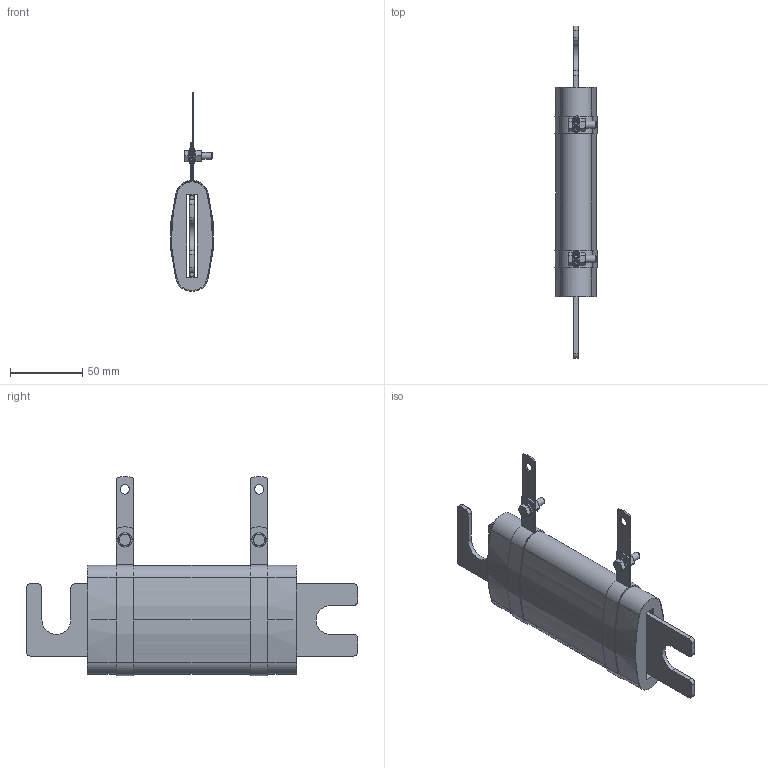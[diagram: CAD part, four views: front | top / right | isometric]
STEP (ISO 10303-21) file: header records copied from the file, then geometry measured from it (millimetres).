
FILE_DESCRIPTION(/* description */ (''),/* implementation_level */ '2;1');
FILE_NAME(/* name */ 'C:\_Vault\Dati\CATALOGO\RCE\RCE 300-1800\CE0300.stp',/* time_stamp */ '2014-01-22T16:10:01+01:00',/* author */ ('stefano'),/* organization */ (''),/* preprocessor_version */ 'ST-DEVELOPER v15.2',/* originating_system */ 'Autodesk Inventor 2014',/* authorisation */ '');
FILE_SCHEMA (('AUTOMOTIVE_DESIGN { 1 0 10303 214 3 1 1 }'));
Length unit declared in the file: millimetre
Products named in the file (1): CE0300
Bounding box: 29.17 x 230 x 137.95 mm (x, y, z)
Volume: 238728.5 mm3; surface area: 107508.8 mm2
Topology: 5 solids, 7 shells, 262 faces, 648 edges, 424 vertices
Faces by surface type: plane 140, cylinder 102, cone 20
Full cylindrical faces by diameter (mm): 3 x2, 5 x4, 5.3 x4, 6.5 x6, 6.88 x2, 10 x4
Entity records: 7951 total; most frequent: CARTESIAN_POINT 1393, DIRECTION 1344, ORIENTED_EDGE 1256, EDGE_CURVE 616, AXIS2_PLACEMENT_3D 513, VERTEX_POINT 418, EDGE_LOOP 336, LINE 318
